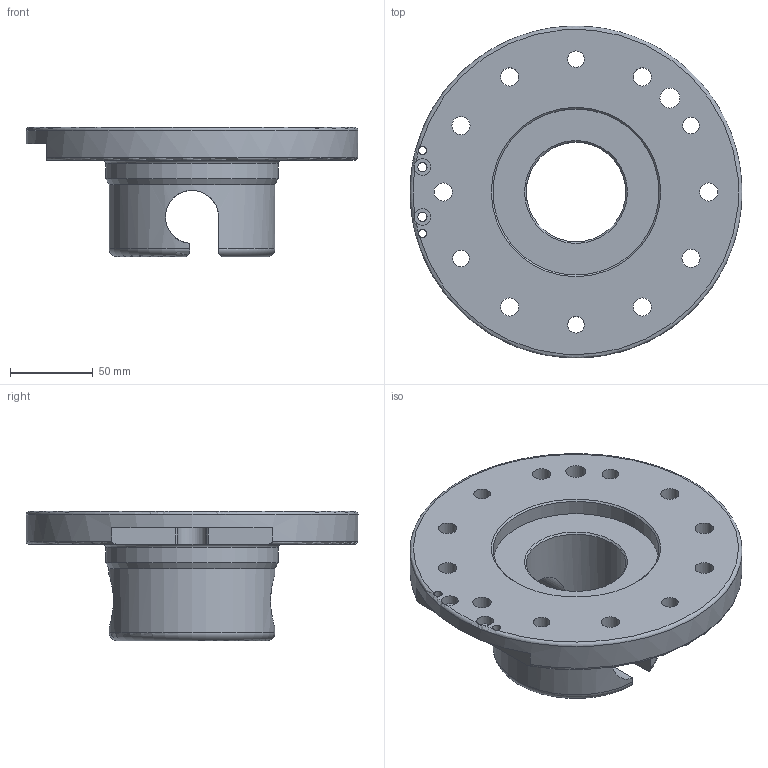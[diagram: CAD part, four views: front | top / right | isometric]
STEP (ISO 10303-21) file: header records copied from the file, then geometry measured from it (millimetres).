
FILE_DESCRIPTION(/* description */ (''),/* implementation_level */ '2;1');
FILE_NAME(/* name */ 'T:\G-SWS200-2UEN.stp',/* time_stamp */ '2022-05-25T10:55:41+02:00',/* author */ ('ysplieth'),/* organization */ (''),/* preprocessor_version */ 'ST-DEVELOPER v17',/* originating_system */ 'Autodesk Inventor 2018',/* authorisation */ '');
FILE_SCHEMA (('AUTOMOTIVE_DESIGN { 1 0 10303 214 3 1 1 }'));
Length unit declared in the file: millimetre
Products named in the file (1): G-SWS200-2UEN_
Bounding box: 200 x 200 x 78 mm (x, y, z)
Volume: 729927.6 mm3; surface area: 109506.5 mm2
Topology: 1 solids, 1 shells, 74 faces, 224 edges, 158 vertices
Faces by surface type: cylinder 36, plane 28, torus 5, cone 5
Full cylindrical faces by diameter (mm): 5 x2, 5.5 x2, 10 x6, 11 x8, 12.1 x1, 18 x8, 60 x1, 100 x2, 104 x1, 200 x1
Entity records: 3162 total; most frequent: CARTESIAN_POINT 851, DIRECTION 475, ORIENTED_EDGE 448, EDGE_CURVE 224, AXIS2_PLACEMENT_3D 202, VERTEX_POINT 158, CIRCLE 123, EDGE_LOOP 116
